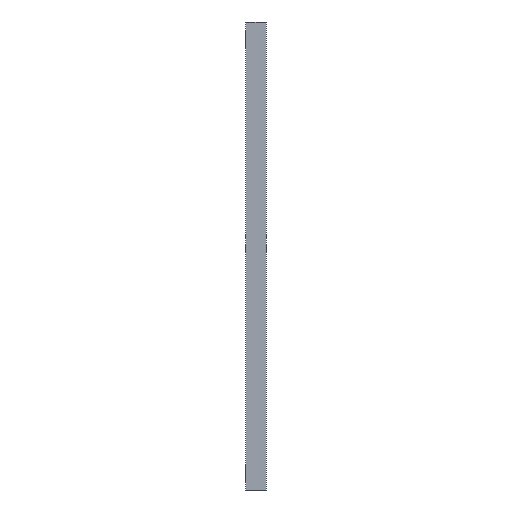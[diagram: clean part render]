
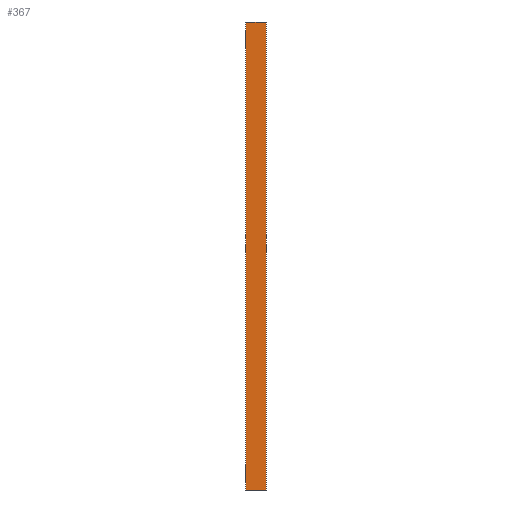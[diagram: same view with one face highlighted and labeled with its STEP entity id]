
A CAD part, left-side view. The second image highlights one B-rep face of the part: STEP entity #367.
In plain terms, the highlighted planar face has unit normal (-1, 0, 0).
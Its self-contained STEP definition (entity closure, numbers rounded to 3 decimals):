
#28 = CARTESIAN_POINT ( 'NONE',  ( -8., 9.3, 0. ) ) ;
#36 = CARTESIAN_POINT ( 'NONE',  ( -8., 0., 279. ) ) ;
#43 = DIRECTION ( 'NONE',  ( 0., 0., 1. ) ) ;
#94 = VERTEX_POINT ( 'NONE', #162 ) ;
#110 = CARTESIAN_POINT ( 'NONE',  ( -8., 9.3, 279. ) ) ;
#112 = EDGE_CURVE ( 'NONE', #885, #538, #930, .T. ) ;
#126 = VECTOR ( 'NONE', #639, 1000. ) ;
#130 = DIRECTION ( 'NONE',  ( 0., 0., -1. ) ) ;
#154 = VERTEX_POINT ( 'NONE', #1077 ) ;
#158 = CARTESIAN_POINT ( 'NONE',  ( -8., 0., 0. ) ) ;
#162 = CARTESIAN_POINT ( 'NONE',  ( -8., 12.5, 279. ) ) ;
#199 = CARTESIAN_POINT ( 'NONE',  ( -8., 3.2, 279. ) ) ;
#274 = LINE ( 'NONE', #158, #771 ) ;
#286 = VECTOR ( 'NONE', #340, 1000. ) ;
#288 = VECTOR ( 'NONE', #311, 1000. ) ;
#298 = EDGE_CURVE ( 'NONE', #538, #1014, #581, .T. ) ;
#311 = DIRECTION ( 'NONE',  ( 0., 1., 0. ) ) ;
#321 = EDGE_CURVE ( 'NONE', #885, #603, #370, .T. ) ;
#332 = VECTOR ( 'NONE', #971, 1000. ) ;
#340 = DIRECTION ( 'NONE',  ( 0., 0., -1. ) ) ;
#345 = VERTEX_POINT ( 'NONE', #28 ) ;
#367 = ADVANCED_FACE ( 'NONE', ( #665 ), #1020, .T. ) ;
#370 = LINE ( 'NONE', #480, #1218 ) ;
#428 = ORIENTED_EDGE ( 'NONE', *, *, #112, .F. ) ;
#459 = CARTESIAN_POINT ( 'NONE',  ( -8., 0., 279. ) ) ;
#464 = DIRECTION ( 'NONE',  ( 0., 1., 0. ) ) ;
#469 = VECTOR ( 'NONE', #1261, 1000. ) ;
#480 = CARTESIAN_POINT ( 'NONE',  ( -8., 0., 279. ) ) ;
#504 = DIRECTION ( 'NONE',  ( 0., 1., 0. ) ) ;
#508 = ORIENTED_EDGE ( 'NONE', *, *, #1375, .T. ) ;
#525 = ORIENTED_EDGE ( 'NONE', *, *, #661, .T. ) ;
#538 = VERTEX_POINT ( 'NONE', #459 ) ;
#544 = LINE ( 'NONE', #757, #126 ) ;
#565 = EDGE_CURVE ( 'NONE', #94, #154, #1213, .T. ) ;
#581 = LINE ( 'NONE', #1116, #975 ) ;
#603 = VERTEX_POINT ( 'NONE', #110 ) ;
#639 = DIRECTION ( 'NONE',  ( 0., 1., 0. ) ) ;
#661 = EDGE_CURVE ( 'NONE', #1280, #1014, #1034, .T. ) ;
#665 = FACE_OUTER_BOUND ( 'NONE', #1224, .T. ) ;
#675 = CARTESIAN_POINT ( 'NONE',  ( -8., 12.5, 279. ) ) ;
#685 = CARTESIAN_POINT ( 'NONE',  ( -8., 0., 0. ) ) ;
#757 = CARTESIAN_POINT ( 'NONE',  ( -8., 12.5, 279. ) ) ;
#760 = ORIENTED_EDGE ( 'NONE', *, *, #321, .T. ) ;
#771 = VECTOR ( 'NONE', #504, 1000. ) ;
#782 = ORIENTED_EDGE ( 'NONE', *, *, #1175, .F. ) ;
#815 = AXIS2_PLACEMENT_3D ( 'NONE', #36, #1027, #43 ) ;
#885 = VERTEX_POINT ( 'NONE', #199 ) ;
#905 = ORIENTED_EDGE ( 'NONE', *, *, #298, .F. ) ;
#930 = LINE ( 'NONE', #1262, #332 ) ;
#941 = ORIENTED_EDGE ( 'NONE', *, *, #1264, .F. ) ;
#962 = CARTESIAN_POINT ( 'NONE',  ( -8., 0., 0. ) ) ;
#971 = DIRECTION ( 'NONE',  ( 0., -1., 0. ) ) ;
#975 = VECTOR ( 'NONE', #130, 1000. ) ;
#1014 = VERTEX_POINT ( 'NONE', #685 ) ;
#1020 = PLANE ( 'NONE',  #815 ) ;
#1027 = DIRECTION ( 'NONE',  ( -1., 0., 0. ) ) ;
#1034 = LINE ( 'NONE', #1231, #469 ) ;
#1077 = CARTESIAN_POINT ( 'NONE',  ( -8., 12.5, 0. ) ) ;
#1116 = CARTESIAN_POINT ( 'NONE',  ( -8., 0., 279. ) ) ;
#1175 = EDGE_CURVE ( 'NONE', #345, #154, #1291, .T. ) ;
#1213 = LINE ( 'NONE', #675, #286 ) ;
#1218 = VECTOR ( 'NONE', #464, 1000. ) ;
#1224 = EDGE_LOOP ( 'NONE', ( #941, #525, #905, #428, #760, #508, #1283, #782 ) ) ;
#1231 = CARTESIAN_POINT ( 'NONE',  ( -8., 0., 0. ) ) ;
#1261 = DIRECTION ( 'NONE',  ( 0., -1., 0. ) ) ;
#1262 = CARTESIAN_POINT ( 'NONE',  ( -8., 0., 279. ) ) ;
#1264 = EDGE_CURVE ( 'NONE', #1280, #345, #274, .T. ) ;
#1280 = VERTEX_POINT ( 'NONE', #1377 ) ;
#1283 = ORIENTED_EDGE ( 'NONE', *, *, #565, .T. ) ;
#1291 = LINE ( 'NONE', #962, #288 ) ;
#1375 = EDGE_CURVE ( 'NONE', #603, #94, #544, .T. ) ;
#1377 = CARTESIAN_POINT ( 'NONE',  ( -8., 3.2, 0. ) ) ;
